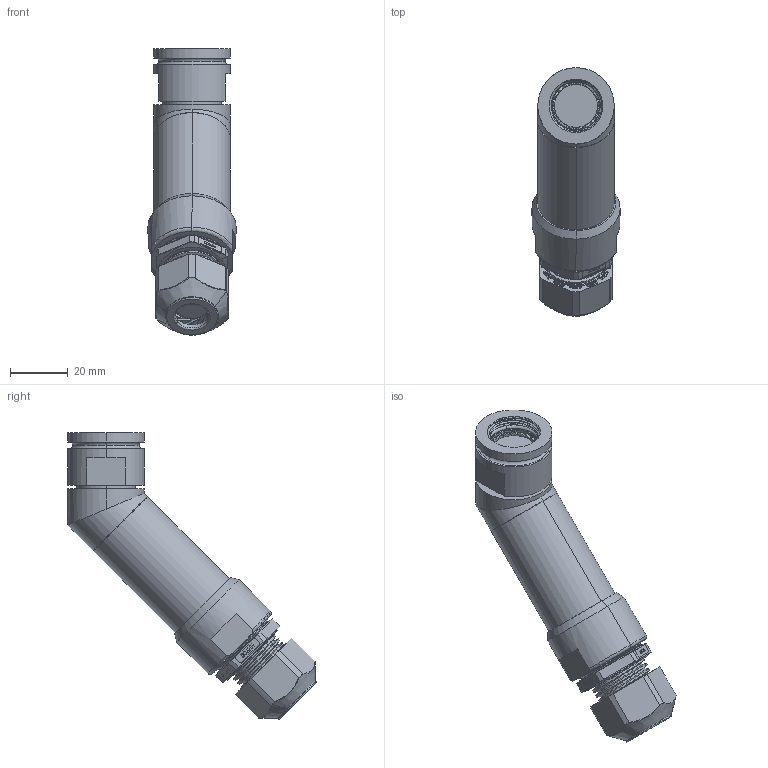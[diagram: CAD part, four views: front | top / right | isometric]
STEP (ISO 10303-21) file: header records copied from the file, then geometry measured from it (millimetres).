
FILE_DESCRIPTION (( 'STEP AP214' ), '1' );
FILE_NAME ('Q38SHELL-45X-13-XXXX-GL.STEP', '2025-09-25T21:46:49', ( '' ), ( '' ), 'SwSTEP 2.0', 'SolidWorks 2024', '' );
FILE_SCHEMA (( 'AUTOMOTIVE_DESIGN' ));
Length unit declared in the file: millimetre
Products named in the file (1): Q38SHELL-45X-13-XXXX-GL
Bounding box: 30.48 x 85.85 x 99.02 mm (x, y, z)
Surface area: 23545.7 mm2 (no closed solid volume)
Topology: 0 solids, 9 shells, 1298 faces, 3301 edges, 2076 vertices
Faces by surface type: plane 620, cylinder 238, bspline 153, torus 123, cone 110, sphere 54
Entity records: 59384 total; most frequent: CARTESIAN_POINT 34488, ORIENTED_EDGE 6560, EDGE_CURVE 3300, DIRECTION 2977, B_SPLINE_CURVE_WITH_KNOTS 2641, VERTEX_POINT 2076, AXIS2_PLACEMENT_3D 1382, EDGE_LOOP 1365
